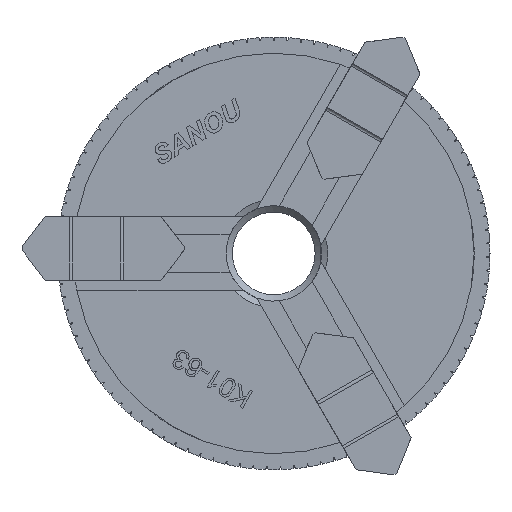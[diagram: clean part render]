
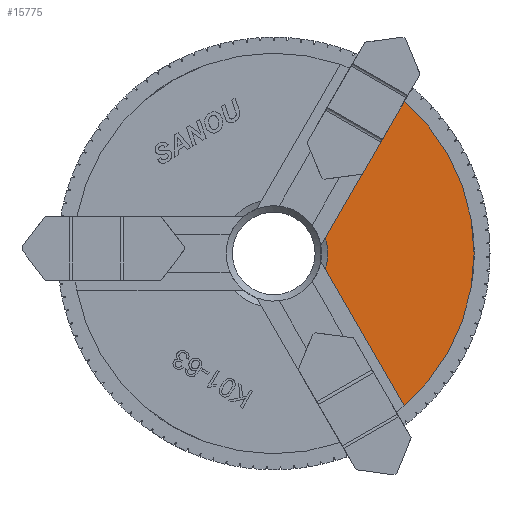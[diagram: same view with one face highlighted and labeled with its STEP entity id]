
A CAD part, front view. The second image highlights one B-rep face of the part: STEP entity #15775.
In plain terms, the highlighted planar face has unit normal (0, -1, 0).
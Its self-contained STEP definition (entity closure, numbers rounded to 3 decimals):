
#526=CIRCLE('',#16611,8.5);
#553=CIRCLE('',#16652,31.5);
#2687=FACE_OUTER_BOUND('',#3555,.T.);
#3555=EDGE_LOOP('',(#11584,#11585,#11586,#11587));
#4469=LINE('',#24200,#5599);
#4534=LINE('',#24779,#5664);
#5599=VECTOR('',#18551,10.);
#5664=VECTOR('',#18754,10.);
#6744=VERTEX_POINT('',#24162);
#6747=VERTEX_POINT('',#24169);
#6759=VERTEX_POINT('',#24199);
#6808=VERTEX_POINT('',#24682);
#8482=EDGE_CURVE('',#6747,#6744,#526,.T.);
#8495=EDGE_CURVE('',#6759,#6744,#4469,.T.);
#8558=EDGE_CURVE('',#6759,#6808,#553,.T.);
#8607=EDGE_CURVE('',#6747,#6808,#4534,.T.);
#11584=ORIENTED_EDGE('',*,*,#8482,.F.);
#11585=ORIENTED_EDGE('',*,*,#8607,.T.);
#11586=ORIENTED_EDGE('',*,*,#8558,.F.);
#11587=ORIENTED_EDGE('',*,*,#8495,.T.);
#15462=PLANE('',#16718);
#15775=ADVANCED_FACE('',(#2687),#15462,.F.);
#16611=AXIS2_PLACEMENT_3D('',#24173,#18527,#18528);
#16652=AXIS2_PLACEMENT_3D('',#24683,#18645,#18646);
#16718=AXIS2_PLACEMENT_3D('',#24824,#18824,#18825);
#18527=DIRECTION('center_axis',(0.,-1.,0.));
#18528=DIRECTION('ref_axis',(1.,0.,0.));
#18551=DIRECTION('',(-0.5,0.,-0.866));
#18645=DIRECTION('center_axis',(0.,1.,0.));
#18646=DIRECTION('ref_axis',(-1.,0.,0.));
#18754=DIRECTION('',(0.5,0.,-0.866));
#18824=DIRECTION('center_axis',(0.,1.,0.));
#18825=DIRECTION('ref_axis',(0.,0.,1.));
#24162=CARTESIAN_POINT('',(8.13,0.,2.481));
#24169=CARTESIAN_POINT('',(8.13,0.,-2.481));
#24173=CARTESIAN_POINT('Origin',(0.,0.,0.));
#24199=CARTESIAN_POINT('',(20.504,0.,23.913));
#24200=CARTESIAN_POINT('',(15.208,0.,14.741));
#24682=CARTESIAN_POINT('',(20.504,0.,-23.913));
#24683=CARTESIAN_POINT('Origin',(0.,0.,0.));
#24779=CARTESIAN_POINT('',(15.208,0.,-14.741));
#24824=CARTESIAN_POINT('Origin',(18.768,0.,0.));
